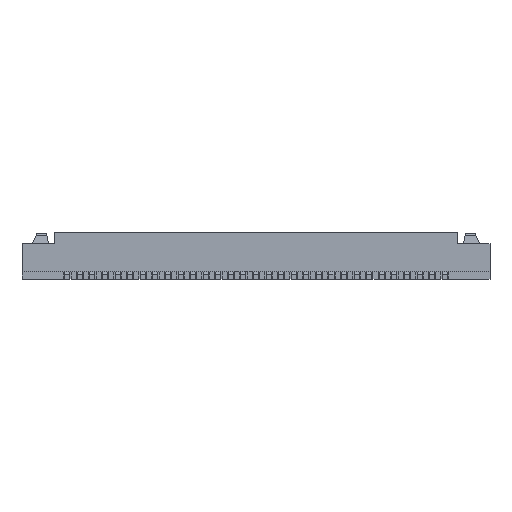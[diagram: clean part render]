
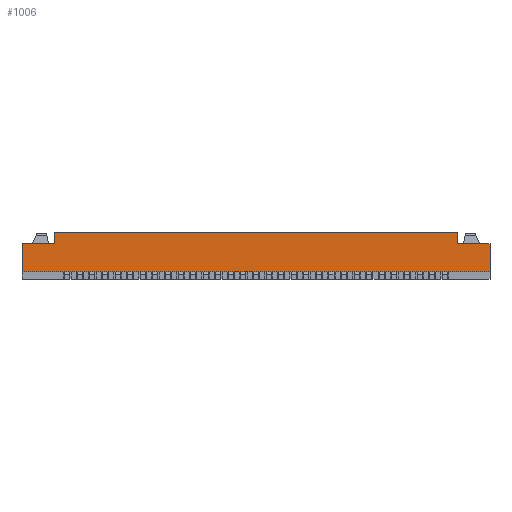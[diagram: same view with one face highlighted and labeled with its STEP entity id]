
A CAD part, front view. The second image highlights one B-rep face of the part: STEP entity #1006.
In plain terms, the highlighted planar face has unit normal (0, -1, 0).
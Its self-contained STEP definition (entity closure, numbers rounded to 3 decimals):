
#399=CARTESIAN_POINT('Vertex',(-8.,-2.4,1.42)) ;
#402=CARTESIAN_POINT('Line Origine',(-8.,-2.4,1.635)) ;
#406=CARTESIAN_POINT('Vertex',(-8.,-2.4,1.85)) ;
#944=CARTESIAN_POINT('Axis2P3D Location',(0.,-2.4,0.3)) ;
#949=CARTESIAN_POINT('Line Origine',(-8.65,-2.4,1.42)) ;
#953=CARTESIAN_POINT('Vertex',(-9.3,-2.4,1.42)) ;
#956=CARTESIAN_POINT('Line Origine',(-9.3,-2.4,0.86)) ;
#960=CARTESIAN_POINT('Vertex',(-9.3,-2.4,0.3)) ;
#963=CARTESIAN_POINT('Line Origine',(0.,-2.4,0.3)) ;
#967=CARTESIAN_POINT('Vertex',(9.3,-2.4,0.3)) ;
#970=CARTESIAN_POINT('Line Origine',(9.3,-2.4,0.86)) ;
#974=CARTESIAN_POINT('Vertex',(9.3,-2.4,1.42)) ;
#977=CARTESIAN_POINT('Line Origine',(8.65,-2.4,1.42)) ;
#981=CARTESIAN_POINT('Vertex',(8.,-2.4,1.42)) ;
#984=CARTESIAN_POINT('Line Origine',(8.,-2.4,1.635)) ;
#988=CARTESIAN_POINT('Vertex',(8.,-2.4,1.85)) ;
#991=CARTESIAN_POINT('Line Origine',(0.,-2.4,1.85)) ;
#403=DIRECTION('Vector Direction',(0.,0.,-1.)) ;
#945=DIRECTION('Axis2P3D Direction',(0.,1.,0.)) ;
#946=DIRECTION('Axis2P3D XDirection',(0.,0.,1.)) ;
#950=DIRECTION('Vector Direction',(1.,0.,0.)) ;
#957=DIRECTION('Vector Direction',(0.,0.,1.)) ;
#964=DIRECTION('Vector Direction',(1.,0.,0.)) ;
#971=DIRECTION('Vector Direction',(0.,0.,1.)) ;
#978=DIRECTION('Vector Direction',(-1.,0.,0.)) ;
#985=DIRECTION('Vector Direction',(0.,0.,-1.)) ;
#992=DIRECTION('Vector Direction',(1.,0.,0.)) ;
#947=AXIS2_PLACEMENT_3D('Plane Axis2P3D',#944,#945,#946) ;
#997=ORIENTED_EDGE('',*,*,#408,.T.) ;
#998=ORIENTED_EDGE('',*,*,#955,.F.) ;
#999=ORIENTED_EDGE('',*,*,#962,.T.) ;
#1000=ORIENTED_EDGE('',*,*,#969,.T.) ;
#1001=ORIENTED_EDGE('',*,*,#976,.F.) ;
#1002=ORIENTED_EDGE('',*,*,#983,.T.) ;
#1003=ORIENTED_EDGE('',*,*,#990,.F.) ;
#1004=ORIENTED_EDGE('',*,*,#995,.F.) ;
#404=VECTOR('Line Direction',#403,1.) ;
#951=VECTOR('Line Direction',#950,1.) ;
#958=VECTOR('Line Direction',#957,1.) ;
#965=VECTOR('Line Direction',#964,1.) ;
#972=VECTOR('Line Direction',#971,1.) ;
#979=VECTOR('Line Direction',#978,1.) ;
#986=VECTOR('Line Direction',#985,1.) ;
#993=VECTOR('Line Direction',#992,1.) ;
#1006=ADVANCED_FACE('\X2\96F64EF651E04F554F53\X0\',(#1005),#948,.F.) ;
#408=EDGE_CURVE('',#407,#400,#405,.T.) ;
#955=EDGE_CURVE('',#954,#400,#952,.T.) ;
#962=EDGE_CURVE('',#954,#961,#959,.F.) ;
#969=EDGE_CURVE('',#961,#968,#966,.T.) ;
#976=EDGE_CURVE('',#975,#968,#973,.F.) ;
#983=EDGE_CURVE('',#975,#982,#980,.T.) ;
#990=EDGE_CURVE('',#989,#982,#987,.T.) ;
#995=EDGE_CURVE('',#407,#989,#994,.T.) ;
#996=EDGE_LOOP('',(#997,#998,#999,#1000,#1001,#1002,#1003,#1004)) ;
#1005=FACE_OUTER_BOUND('',#996,.T.) ;
#405=LINE('Line',#402,#404) ;
#952=LINE('Line',#949,#951) ;
#959=LINE('Line',#956,#958) ;
#966=LINE('Line',#963,#965) ;
#973=LINE('Line',#970,#972) ;
#980=LINE('Line',#977,#979) ;
#987=LINE('Line',#984,#986) ;
#994=LINE('Line',#991,#993) ;
#948=PLANE('Plane',#947) ;
#400=VERTEX_POINT('',#399) ;
#407=VERTEX_POINT('',#406) ;
#954=VERTEX_POINT('',#953) ;
#961=VERTEX_POINT('',#960) ;
#968=VERTEX_POINT('',#967) ;
#975=VERTEX_POINT('',#974) ;
#982=VERTEX_POINT('',#981) ;
#989=VERTEX_POINT('',#988) ;
